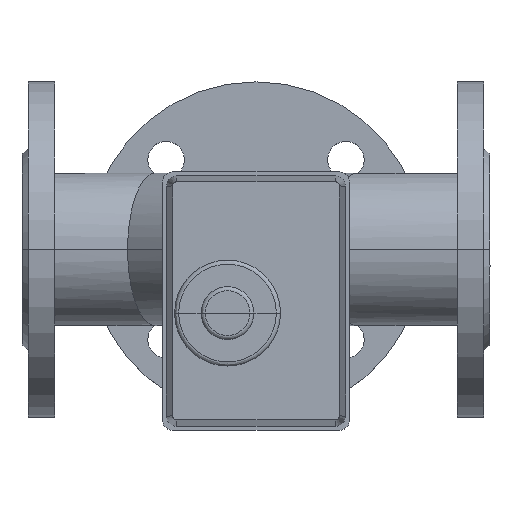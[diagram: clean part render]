
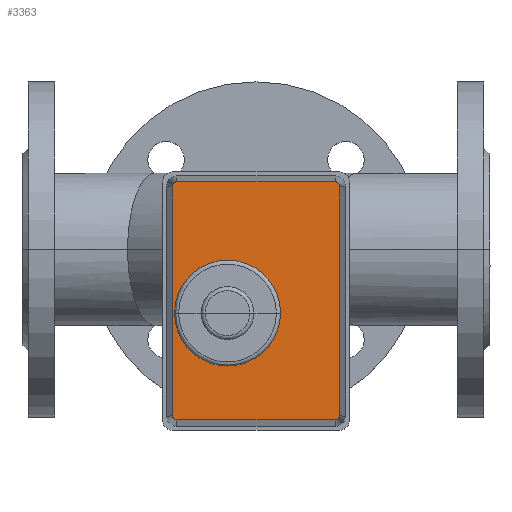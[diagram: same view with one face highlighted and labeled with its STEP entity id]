
A CAD part, top view. The second image highlights one B-rep face of the part: STEP entity #3363.
In plain terms, the highlighted planar face has unit normal (0, 0, 1).
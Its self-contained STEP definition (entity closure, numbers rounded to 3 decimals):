
#336=LINE('',#6073,#538);
#337=LINE('',#6077,#539);
#338=LINE('',#6081,#540);
#339=LINE('',#6084,#541);
#538=VECTOR('',#4715,304.8);
#539=VECTOR('',#4718,304.8);
#540=VECTOR('',#4721,304.8);
#541=VECTOR('',#4724,304.8);
#849=FACE_OUTER_BOUND('',#1076,.T.);
#1076=EDGE_LOOP('',(#2750,#2751,#2752,#2753,#2754,#2755,#2756,#2757));
#1298=CIRCLE('',#3764,2.);
#1299=CIRCLE('',#3765,2.);
#1300=CIRCLE('',#3766,2.);
#1301=CIRCLE('',#3767,2.);
#1565=VERTEX_POINT('',#6069);
#1566=VERTEX_POINT('',#6070);
#1567=VERTEX_POINT('',#6072);
#1568=VERTEX_POINT('',#6074);
#1569=VERTEX_POINT('',#6076);
#1570=VERTEX_POINT('',#6078);
#1571=VERTEX_POINT('',#6080);
#1572=VERTEX_POINT('',#6082);
#1969=EDGE_CURVE('',#1565,#1566,#1298,.T.);
#1970=EDGE_CURVE('',#1566,#1567,#336,.T.);
#1971=EDGE_CURVE('',#1567,#1568,#1299,.T.);
#1972=EDGE_CURVE('',#1568,#1569,#337,.T.);
#1973=EDGE_CURVE('',#1569,#1570,#1300,.T.);
#1974=EDGE_CURVE('',#1570,#1571,#338,.T.);
#1975=EDGE_CURVE('',#1571,#1572,#1301,.T.);
#1976=EDGE_CURVE('',#1572,#1565,#339,.T.);
#2750=ORIENTED_EDGE('',*,*,#1969,.T.);
#2751=ORIENTED_EDGE('',*,*,#1970,.T.);
#2752=ORIENTED_EDGE('',*,*,#1971,.T.);
#2753=ORIENTED_EDGE('',*,*,#1972,.T.);
#2754=ORIENTED_EDGE('',*,*,#1973,.T.);
#2755=ORIENTED_EDGE('',*,*,#1974,.T.);
#2756=ORIENTED_EDGE('',*,*,#1975,.T.);
#2757=ORIENTED_EDGE('',*,*,#1976,.T.);
#2971=PLANE('',#3763);
#3363=ADVANCED_FACE('',(#849),#2971,.T.);
#3763=AXIS2_PLACEMENT_3D('',#6068,#4711,#4712);
#3764=AXIS2_PLACEMENT_3D('',#6071,#4713,#4714);
#3765=AXIS2_PLACEMENT_3D('',#6075,#4716,#4717);
#3766=AXIS2_PLACEMENT_3D('',#6079,#4719,#4720);
#3767=AXIS2_PLACEMENT_3D('',#6083,#4722,#4723);
#4711=DIRECTION('center_axis',(0.,0.,1.));
#4712=DIRECTION('ref_axis',(0.,1.,0.));
#4713=DIRECTION('center_axis',(0.,0.,1.));
#4714=DIRECTION('ref_axis',(0.,-1.,0.));
#4715=DIRECTION('',(1.,0.,0.));
#4716=DIRECTION('center_axis',(0.,0.,
1.));
#4717=DIRECTION('ref_axis',(1.,0.,0.));
#4718=DIRECTION('',(0.,1.,0.));
#4719=DIRECTION('center_axis',(0.,0.,1.));
#4720=DIRECTION('ref_axis',(0.,1.,0.));
#4721=DIRECTION('',(-1.,0.,0.));
#4722=DIRECTION('center_axis',(0.,0.,1.));
#4723=DIRECTION('ref_axis',(-1.,0.,0.));
#4724=DIRECTION('',(0.,-1.,0.));
#6068=CARTESIAN_POINT('Origin',(-26.001,0.,
297.991));
#6069=CARTESIAN_POINT('',(-84.509,-39.,297.991));
#6070=CARTESIAN_POINT('',(-82.509,-41.,297.991));
#6071=CARTESIAN_POINT('Origin',(-82.509,-39.,297.991));
#6072=CARTESIAN_POINT('',(30.508,-41.,297.991));
#6073=CARTESIAN_POINT('',(30.508,-41.,297.991));
#6074=CARTESIAN_POINT('',(32.508,-39.,297.991));
#6075=CARTESIAN_POINT('Origin',(30.508,-39.,297.991));
#6076=CARTESIAN_POINT('',(32.508,39.,297.991));
#6077=CARTESIAN_POINT('',(32.508,39.,297.991));
#6078=CARTESIAN_POINT('',(30.508,41.,297.991));
#6079=CARTESIAN_POINT('Origin',(30.508,39.,297.991));
#6080=CARTESIAN_POINT('',(-82.509,41.,297.991));
#6081=CARTESIAN_POINT('',(-82.509,41.,297.991));
#6082=CARTESIAN_POINT('',(-84.509,39.,297.991));
#6083=CARTESIAN_POINT('Origin',(-82.509,39.,297.991));
#6084=CARTESIAN_POINT('',(-84.509,-39.,297.991));
